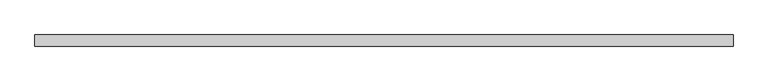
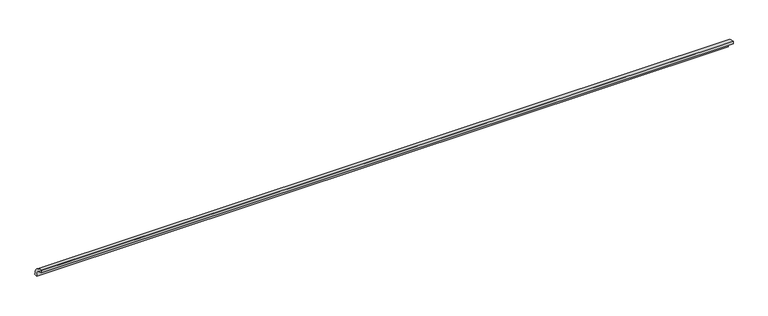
"""IFC4 building model written with IfcOpenShell, lengths in millimetres: proxy geometry, Muestra 2.5m 138 : Muestra 2.5m 138."""

from ifc_helpers import new_model, si_unit, point, frame, frame_2d, origin, place, context, project, spatial, polyline, circle_curve, trimmed, segment, composite_curve, outline, extrude, source, transform, mapped, element, save


def generic_models_4fe02839(model_context):
    return source(origin(), model_context, "Body", "SweptSolid", [
        extrude(outline(composite_curve([segment(polyline([(-10308.1408934, 30.0265886), (-10308.1408934, 40.0)]), True, "CONTINUOUS"), segment(trimmed(circle_curve(frame_2d((-10308.1408934, 0.0)), 40.0), [point((-10308.1408934, 40.0))], [point((-10268.1408934, 0.0))], False, "CARTESIAN"), True, "CONTINUOUS"), segment(polyline([(-10268.1408934, 0.0), (-10278.1143048, 0.0)]), True, "CONTINUOUS"), segment(trimmed(circle_curve(frame_2d((-10308.136448, 0.0044453)), 30.0221435), [point((-10278.1143048, 0.0))], [point((-10308.1408934, 30.0265886))], True, "CARTESIAN"), True, "CONTINUOUS")], self_intersect=False)), frame((143603.9467635, 0.0, 0.0), z_axis=(1.0, 0.0, 0.0), x_axis=(0.0, 1.0, 0.0)), (0.0, 0.0, 1.0), 2500.0),
    ])


if __name__ == "__main__":
    model = new_model("IFC4")
    model_context = context("Model", 3, world=origin())
    ifc_project = project(units=[si_unit("LENGTHUNIT", "METRE", prefix="MILLI")], contexts=[model_context])
    site = spatial("IfcSite", under=ifc_project)
    building = spatial("IfcBuilding", under=site)
    placement = place(None, origin())
    generic_models_shape = generic_models_4fe02839(model_context)
    element("IfcBuildingElementProxy", 1, Name="Muestra 2.5m 138 : Muestra 2.5m 138", ObjectType="Muestra 2.5m 138 : Muestra 2.5m 138", at=placement, inside=building, context=model_context, shape_type="MappedRepresentation", body=[
        mapped(generic_models_shape, transform((0.0, 0.0, 0.0), x_axis=(1.0, 0.0, 0.0), y_axis=(0.0, 1.0, 0.0), z_axis=(0.0, 0.0, 1.0))),
    ])
    save(model, "model.ifc")
